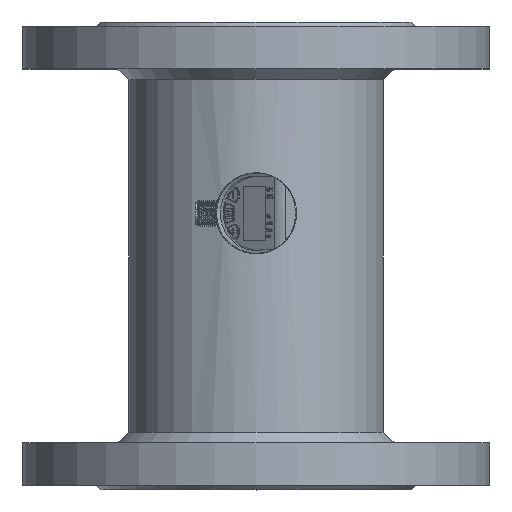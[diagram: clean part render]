
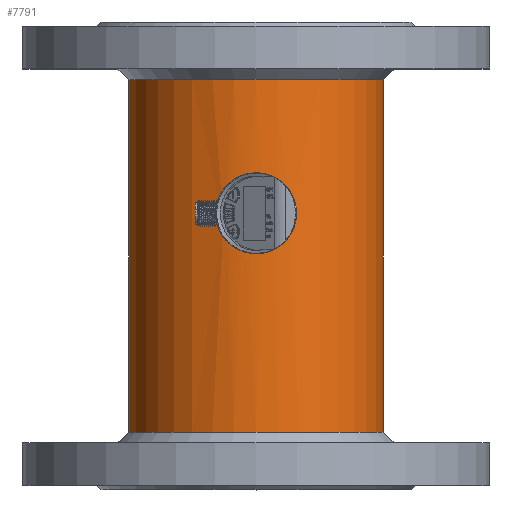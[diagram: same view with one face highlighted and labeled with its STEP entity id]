
A CAD part, top view. The second image highlights one B-rep face of the part: STEP entity #7791.
In plain terms, the highlighted cylindrical face has radius 60 mm (diameter 120 mm), a full revolution.
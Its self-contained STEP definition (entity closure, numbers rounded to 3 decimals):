
#6040=CYLINDRICAL_SURFACE('',#22944,60.);
#6810=B_SPLINE_CURVE_WITH_KNOTS('',3,(#43311,#43312,#43313,#43314,#43315,
#43316,#43317,#43318,#43319,#43320),.UNSPECIFIED.,.F.,.F.,(4,2,2,2,4),(0.,
0.25,0.5,0.75,1.),.UNSPECIFIED.);
#6811=B_SPLINE_CURVE_WITH_KNOTS('',3,(#43321,#43322,#43323,#43324,#43325,
#43326,#43327,#43328,#43329,#43330),.UNSPECIFIED.,.F.,.F.,(4,2,2,2,4),(0.,
0.25,0.5,0.75,1.),.UNSPECIFIED.);
#7791=ADVANCED_FACE('',(#8664,#8665,#8666),#6040,.T.);
#8664=FACE_BOUND('',#9963,.T.);
#8665=FACE_BOUND('',#9964,.T.);
#8666=FACE_BOUND('',#9965,.T.);
#9963=EDGE_LOOP('',(#15286));
#9964=EDGE_LOOP('',(#15287));
#9965=EDGE_LOOP('',(#15288,#15289,#15290,#15291));
#10651=CIRCLE('',#22942,60.);
#10652=CIRCLE('',#22943,60.);
#15286=ORIENTED_EDGE('',*,*,#19297,.T.);
#15287=ORIENTED_EDGE('',*,*,#19298,.T.);
#15288=ORIENTED_EDGE('',*,*,#19299,.T.);
#15289=ORIENTED_EDGE('',*,*,#19293,.F.);
#15290=ORIENTED_EDGE('',*,*,#19300,.T.);
#15291=ORIENTED_EDGE('',*,*,#19295,.F.);
#16947=VERTEX_POINT('',#43287);
#16948=VERTEX_POINT('',#43288);
#16949=VERTEX_POINT('',#43290);
#16950=VERTEX_POINT('',#43301);
#16952=VERTEX_POINT('',#43308);
#16953=VERTEX_POINT('',#43310);
#19293=EDGE_CURVE('',#16948,#16949,#20315,.T.);
#19295=EDGE_CURVE('',#16950,#16947,#20316,.T.);
#19297=EDGE_CURVE('',#16952,#16952,#10651,.T.);
#19298=EDGE_CURVE('',#16953,#16953,#10652,.T.);
#19299=EDGE_CURVE('',#16950,#16949,#6810,.T.);
#19300=EDGE_CURVE('',#16948,#16947,#6811,.T.);
#20315=LINE('',#43289,#21475);
#20316=LINE('',#43302,#21476);
#21475=VECTOR('',#27065,1.);
#21476=VECTOR('',#27066,1.);
#22942=AXIS2_PLACEMENT_3D('',#43307,#27073,#27074);
#22943=AXIS2_PLACEMENT_3D('',#43309,#27075,#27076);
#22944=AXIS2_PLACEMENT_3D('',#43331,#27077,#27078);
#27065=DIRECTION('',(0.,-1.,0.));
#27066=DIRECTION('',(0.,1.,0.));
#27073=DIRECTION('',(0.,1.,0.));
#27074=DIRECTION('',(0.,0.,-1.));
#27075=DIRECTION('',(0.,-1.,0.));
#27076=DIRECTION('',(0.,0.,1.));
#27077=DIRECTION('',(0.,-1.,0.));
#27078=DIRECTION('',(0.,0.,-1.));
#43287=CARTESIAN_POINT('',(40.862,40.298,-97.224));
#43288=CARTESIAN_POINT('',(10.138,40.299,-97.224));
#43289=CARTESIAN_POINT('',(10.138,-879.758,-97.224));
#43290=CARTESIAN_POINT('',(10.138,32.492,-97.224));
#43301=CARTESIAN_POINT('',(40.862,32.498,-97.224));
#43302=CARTESIAN_POINT('',(40.862,-879.758,-97.224));
#43307=CARTESIAN_POINT('',(25.5,-66.358,-155.224));
#43308=CARTESIAN_POINT('',(25.5,-66.358,-215.224));
#43309=CARTESIAN_POINT('',(25.5,99.642,-155.224));
#43310=CARTESIAN_POINT('',(25.5,99.642,-95.224));
#43311=CARTESIAN_POINT('',(40.862,32.498,-97.224));
#43312=CARTESIAN_POINT('',(39.953,29.143,-96.983));
#43313=CARTESIAN_POINT('',(37.915,26.247,-96.455));
#43314=CARTESIAN_POINT('',(32.365,22.15,-95.552));
#43315=CARTESIAN_POINT('',(28.976,21.051,-95.225));
#43316=CARTESIAN_POINT('',(22.047,21.044,-95.224));
#43317=CARTESIAN_POINT('',(18.635,22.157,-95.553));
#43318=CARTESIAN_POINT('',(13.118,26.215,-96.449));
#43319=CARTESIAN_POINT('',(11.052,29.14,-96.982));
#43320=CARTESIAN_POINT('',(10.138,32.492,-97.224));
#43321=CARTESIAN_POINT('',(10.138,40.299,-97.224));
#43322=CARTESIAN_POINT('',(11.047,43.654,-96.983));
#43323=CARTESIAN_POINT('',(13.084,46.552,-96.456));
#43324=CARTESIAN_POINT('',(18.637,50.649,-95.552));
#43325=CARTESIAN_POINT('',(22.026,51.752,-95.225));
#43326=CARTESIAN_POINT('',(28.958,51.753,-95.224));
#43327=CARTESIAN_POINT('',(32.371,50.643,-95.554));
#43328=CARTESIAN_POINT('',(37.887,46.577,-96.45));
#43329=CARTESIAN_POINT('',(39.955,43.652,-96.984));
#43330=CARTESIAN_POINT('',(40.862,40.298,-97.224));
#43331=CARTESIAN_POINT('',(25.5,-879.758,-155.224));
